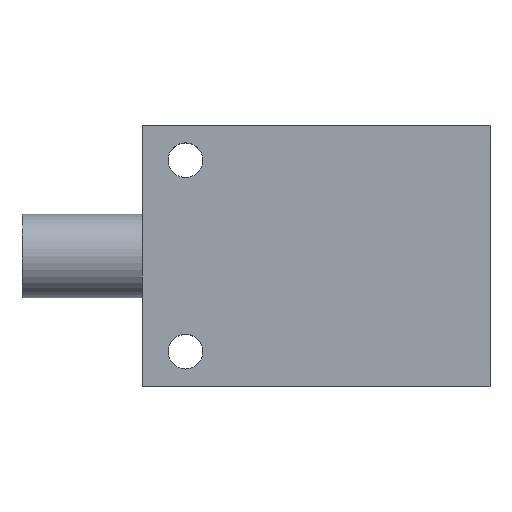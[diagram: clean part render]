
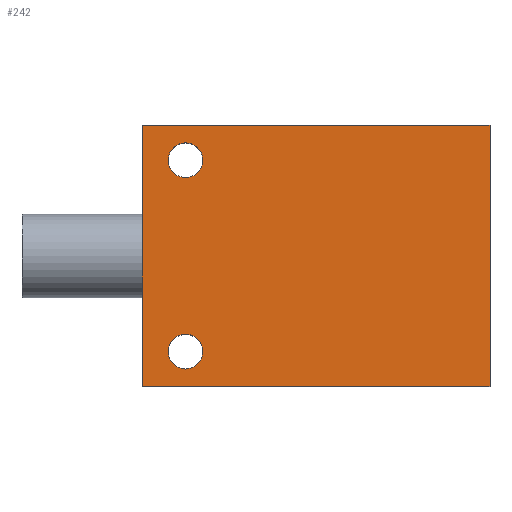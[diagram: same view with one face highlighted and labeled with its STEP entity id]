
A CAD part, top view. The second image highlights one B-rep face of the part: STEP entity #242.
In plain terms, the highlighted planar face has unit normal (0, 0, 1).
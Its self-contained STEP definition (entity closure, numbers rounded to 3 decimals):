
#24=CIRCLE('',#256,1.);
#26=CIRCLE('',#259,1.);
#50=ORIENTED_EDGE('',*,*,#78,.F.);
#51=ORIENTED_EDGE('',*,*,#76,.F.);
#52=ORIENTED_EDGE('',*,*,#67,.T.);
#53=ORIENTED_EDGE('',*,*,#72,.T.);
#54=ORIENTED_EDGE('',*,*,#75,.T.);
#55=ORIENTED_EDGE('',*,*,#81,.T.);
#67=EDGE_CURVE('',#86,#85,#99,.T.);
#72=EDGE_CURVE('',#85,#89,#103,.T.);
#75=EDGE_CURVE('',#89,#91,#106,.T.);
#76=EDGE_CURVE('',#92,#92,#24,.T.);
#78=EDGE_CURVE('',#94,#94,#26,.T.);
#81=EDGE_CURVE('',#91,#86,#108,.T.);
#85=VERTEX_POINT('',#319);
#86=VERTEX_POINT('',#321);
#89=VERTEX_POINT('',#329);
#91=VERTEX_POINT('',#335);
#92=VERTEX_POINT('',#339);
#94=VERTEX_POINT('',#344);
#99=LINE('',#320,#111);
#103=LINE('',#330,#115);
#106=LINE('',#336,#118);
#108=LINE('',#349,#120);
#111=VECTOR('',#273,1000.);
#115=VECTOR('',#281,1000.);
#118=VECTOR('',#286,1000.);
#120=VECTOR('',#302,1000.);
#130=EDGE_LOOP('',(#50));
#131=EDGE_LOOP('',(#51));
#132=EDGE_LOOP('',(#52,#53,#54,#55));
#148=FACE_BOUND('',#130,.T.);
#149=FACE_BOUND('',#131,.T.);
#150=FACE_BOUND('',#132,.T.);
#161=PLANE('',#262);
#242=ADVANCED_FACE('',(#148,#149,#150),#161,.T.);
#256=AXIS2_PLACEMENT_3D('',#338,#289,#290);
#259=AXIS2_PLACEMENT_3D('',#343,#295,#296);
#262=AXIS2_PLACEMENT_3D('',#350,#303,#304);
#273=DIRECTION('',(-1.,0.,0.));
#281=DIRECTION('',(0.,-1.,0.));
#286=DIRECTION('',(1.,0.,0.));
#289=DIRECTION('',(0.,0.,1.));
#290=DIRECTION('',(1.,0.,0.));
#295=DIRECTION('',(0.,0.,1.));
#296=DIRECTION('',(1.,0.,0.));
#302=DIRECTION('',(0.,1.,0.));
#303=DIRECTION('',(0.,0.,1.));
#304=DIRECTION('',(1.,0.,0.));
#319=CARTESIAN_POINT('',(0.,7.5,2.5));
#320=CARTESIAN_POINT('',(20.,7.5,2.5));
#321=CARTESIAN_POINT('',(20.,7.5,2.5));
#329=CARTESIAN_POINT('',(0.,-7.5,2.5));
#330=CARTESIAN_POINT('',(0.,7.5,2.5));
#335=CARTESIAN_POINT('',(20.,-7.5,2.5));
#336=CARTESIAN_POINT('',(0.,-7.5,2.5));
#338=CARTESIAN_POINT('',(2.5,5.5,2.5));
#339=CARTESIAN_POINT('',(3.5,5.5,2.5));
#343=CARTESIAN_POINT('',(2.5,-5.5,2.5));
#344=CARTESIAN_POINT('',(3.5,-5.5,2.5));
#349=CARTESIAN_POINT('',(20.,-7.5,2.5));
#350=CARTESIAN_POINT('',(0.,0.,2.5));
